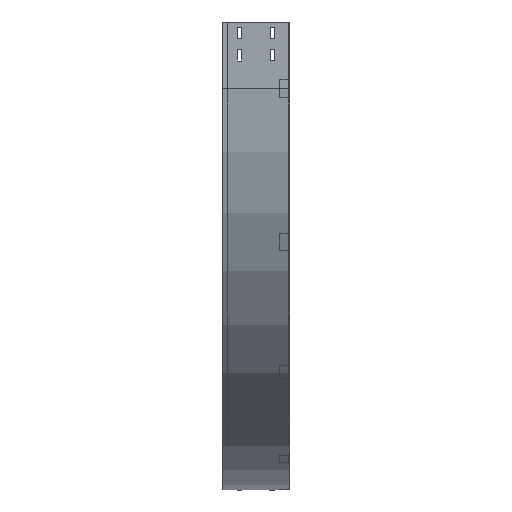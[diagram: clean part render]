
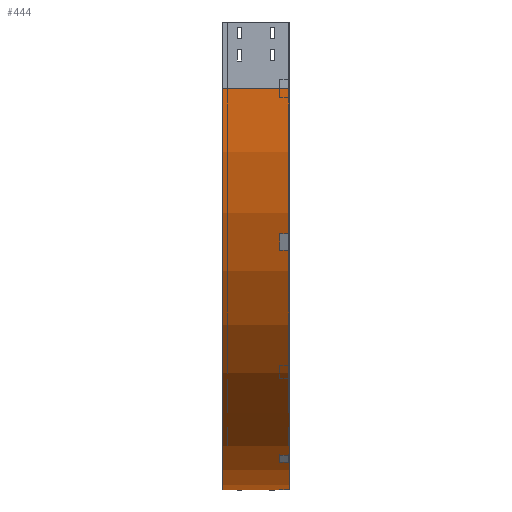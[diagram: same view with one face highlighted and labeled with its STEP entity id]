
A CAD part, left-side view. The second image highlights one B-rep face of the part: STEP entity #444.
In plain terms, the highlighted cylindrical face has radius 900 mm (diameter 1800 mm), a partial arc.
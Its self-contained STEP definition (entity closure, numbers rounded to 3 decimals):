
#10 = VECTOR ( 'NONE', #1713, 1000. ) ;
#41 = CARTESIAN_POINT ( 'NONE',  ( 900., 0., -150. ) ) ;
#85 = AXIS2_PLACEMENT_3D ( 'NONE', #3756, #2854, #999 ) ;
#209 = EDGE_CURVE ( 'NONE', #1763, #2120, #3399, .T. ) ;
#444 = ADVANCED_FACE ( 'NONE', ( #930 ), #632, .T. ) ;
#632 = CYLINDRICAL_SURFACE ( 'NONE', #1690, 900. ) ;
#702 = CIRCLE ( 'NONE', #1818, 900. ) ;
#862 = CARTESIAN_POINT ( 'NONE',  ( 0., 0., -150. ) ) ;
#904 = CIRCLE ( 'NONE', #85, 900. ) ;
#930 = FACE_OUTER_BOUND ( 'NONE', #1272, .T. ) ;
#968 = VERTEX_POINT ( 'NONE', #984 ) ;
#984 = CARTESIAN_POINT ( 'NONE',  ( 900., 150., -1050. ) ) ;
#999 = DIRECTION ( 'NONE',  ( -1., 0., 0. ) ) ;
#1187 = ORIENTED_EDGE ( 'NONE', *, *, #1913, .F. ) ;
#1272 = EDGE_LOOP ( 'NONE', ( #1187, #3597, #1722, #3102 ) ) ;
#1409 = CARTESIAN_POINT ( 'NONE',  ( 900., 0., -1050. ) ) ;
#1690 = AXIS2_PLACEMENT_3D ( 'NONE', #41, #2773, #3591 ) ;
#1713 = DIRECTION ( 'NONE',  ( 0., -1., 0. ) ) ;
#1722 = ORIENTED_EDGE ( 'NONE', *, *, #2047, .T. ) ;
#1763 = VERTEX_POINT ( 'NONE', #3663 ) ;
#1818 = AXIS2_PLACEMENT_3D ( 'NONE', #1890, #2210, #3089 ) ;
#1847 = CARTESIAN_POINT ( 'NONE',  ( 900., 0., -1050. ) ) ;
#1890 = CARTESIAN_POINT ( 'NONE',  ( 900., 150., -150. ) ) ;
#1913 = EDGE_CURVE ( 'NONE', #2120, #2280, #904, .T. ) ;
#2006 = LINE ( 'NONE', #1409, #10 ) ;
#2047 = EDGE_CURVE ( 'NONE', #1763, #968, #702, .T. ) ;
#2072 = EDGE_CURVE ( 'NONE', #968, #2280, #2006, .T. ) ;
#2120 = VERTEX_POINT ( 'NONE', #862 ) ;
#2206 = CARTESIAN_POINT ( 'NONE',  ( 0., 0., -150. ) ) ;
#2210 = DIRECTION ( 'NONE',  ( 0., -1., 0. ) ) ;
#2280 = VERTEX_POINT ( 'NONE', #1847 ) ;
#2577 = DIRECTION ( 'NONE',  ( 0., -1., 0. ) ) ;
#2773 = DIRECTION ( 'NONE',  ( 0., -1., 0. ) ) ;
#2825 = VECTOR ( 'NONE', #2577, 1000. ) ;
#2854 = DIRECTION ( 'NONE',  ( 0., -1., 0. ) ) ;
#3089 = DIRECTION ( 'NONE',  ( -1., 0., 0. ) ) ;
#3102 = ORIENTED_EDGE ( 'NONE', *, *, #2072, .T. ) ;
#3399 = LINE ( 'NONE', #2206, #2825 ) ;
#3591 = DIRECTION ( 'NONE',  ( 0., 0., -1. ) ) ;
#3597 = ORIENTED_EDGE ( 'NONE', *, *, #209, .F. ) ;
#3663 = CARTESIAN_POINT ( 'NONE',  ( 0., 150., -150. ) ) ;
#3756 = CARTESIAN_POINT ( 'NONE',  ( 900., 0., -150. ) ) ;
